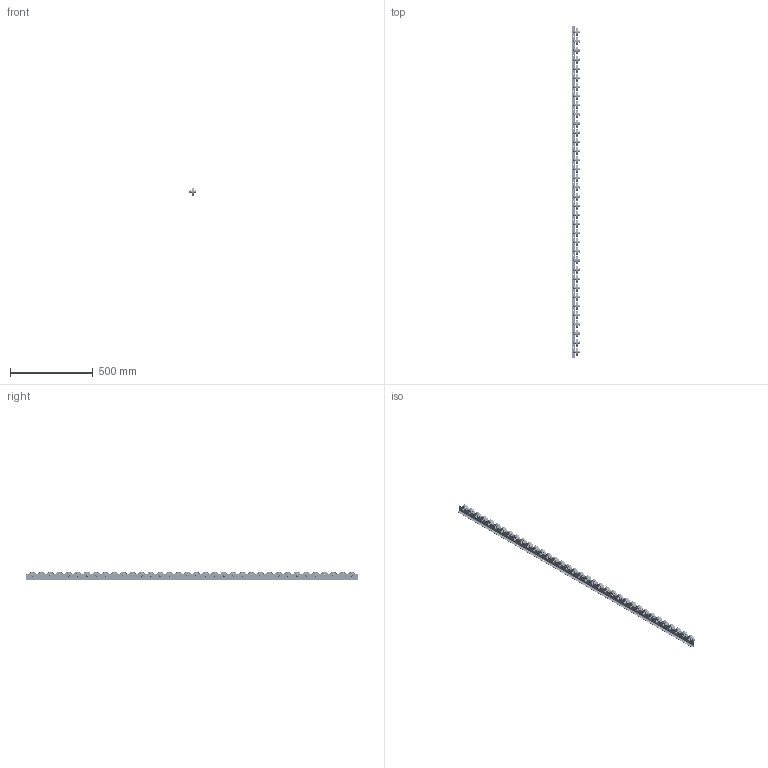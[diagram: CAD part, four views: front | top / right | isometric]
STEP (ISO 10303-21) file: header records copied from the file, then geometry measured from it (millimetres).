
FILE_DESCRIPTION(/* description */ ('Unknown'),/* implementation_level */ '2;1');
FILE_NAME(/* name */ 'Listwa T805',/* time_stamp */ '2026-06-26T13:53:37+02:00',/* author */ ('Unknown'),/* organization */ ('Unknown'),/* preprocessor_version */ 'ST-DEVELOPER v20',/* originating_system */ 'Solid Edge',/* authorisation */ 'Unknown');
FILE_SCHEMA (('AUTOMOTIVE_DESIGN {1 0 10303 214 3 1 1}'));
Length unit declared in the file: millimetre
Products named in the file (5): Listwa T805; Ceownik T800G; 621 rolka; Screw_DIN_933_M8x35_v12.00; Nut_DIN_980_M_M8_v10.50
Assembly tree (109 placements, depth 2):
  Listwa T805
    Ceownik T800G
    621 rolka  x36
    Screw_DIN_933_M8x35_v12.00  x36
    Nut_DIN_980_M_M8_v10.50  x36
Bounding box: 47.1 x 2000 x 53 mm (x, y, z)
Volume: 964263.1 mm3; surface area: 634951.4 mm2
Topology: 109 solids, 109 shells, 2764 faces, 5748 edges, 3634 vertices
Faces by surface type: plane 1088, cylinder 632, cone 540, torus 504
Full cylindrical faces by diameter (mm): 6.2 x18, 6.466 x36, 6.647 x36, 6.697 x36, 8 x72, 8.2 x36, 8.3 x36, 8.4 x36, 11.63 x36, 12.5 x36, 12.6 x72, 29.5 x72, 43.6 x72, 48 x36
Entity records: 5219 total; most frequent: DIRECTION 880, CARTESIAN_POINT 823, ORIENTED_EDGE 492, AXIS2_PLACEMENT_3D 421, EDGE_LOOP 350, FACE_BOUND 350, EDGE_CURVE 246, VERTEX_POINT 214
